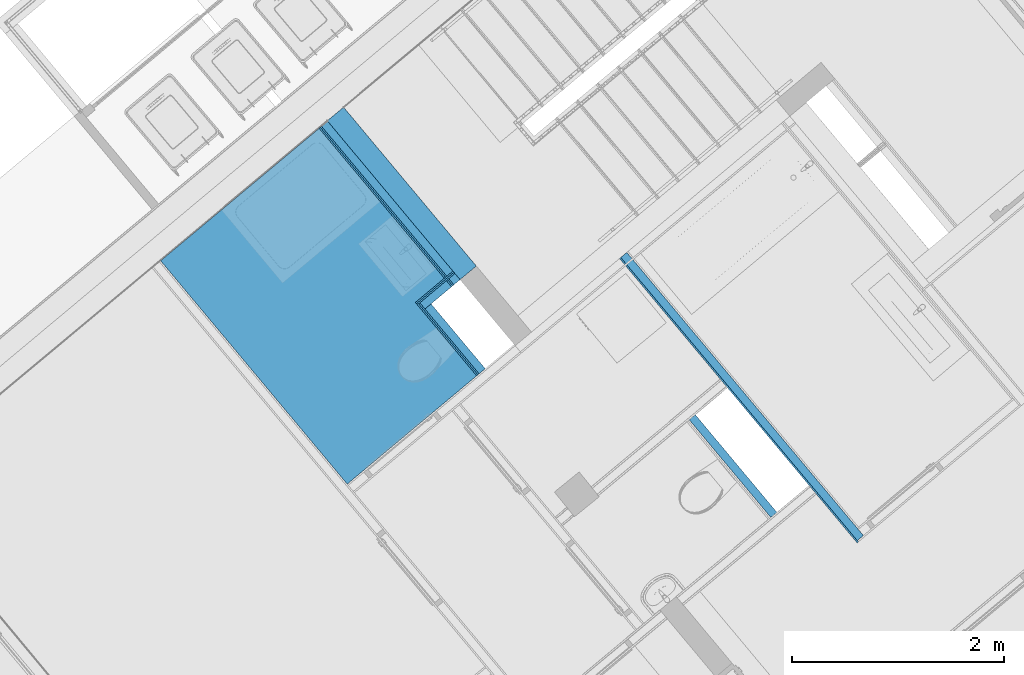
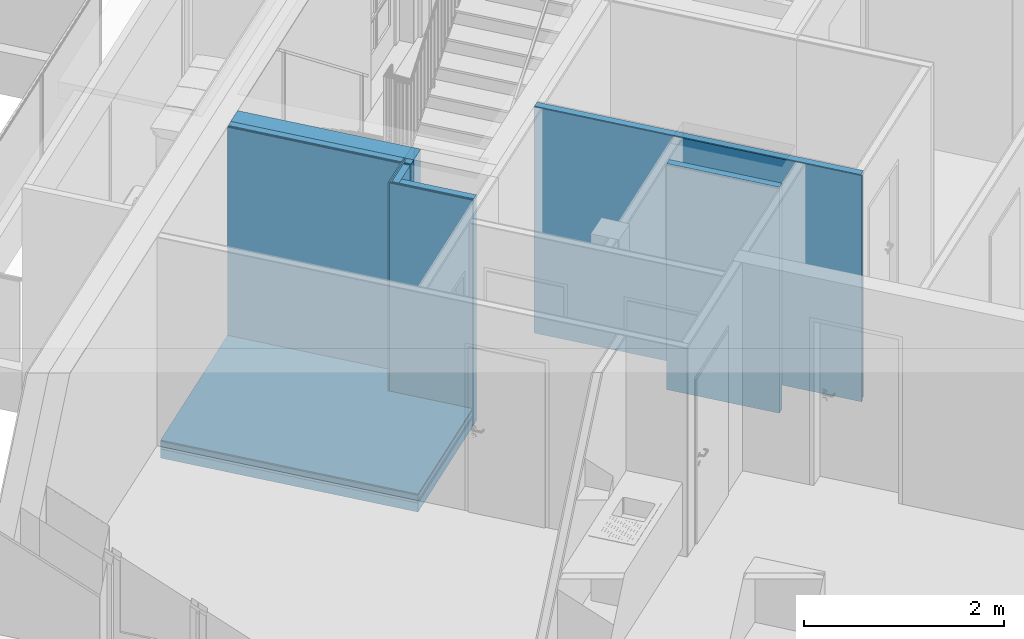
# One storey, part 30 of 67: 17 building element parts, 6 elements without a shape of their own.
"""IFC4 building model written with IfcOpenShell, lengths in metres."""

from ifc_helpers import new_model, entity, si_unit, converted_unit, derived_unit, direction, frame, origin_with_axes, place, context, subcontext, project, spatial, polygons, material, type_object, element, aggregate, save


model = new_model("IFC4")

# Units and contexts
model_context = context("Model", 3, precision=1e-05, world=origin_with_axes(), true_north=direction((0.0, 1.0)))
body_context = subcontext(model_context, "Body", "Model", "MODEL_VIEW")
ifc_project = project(units=[si_unit("LENGTHUNIT", "METRE"), si_unit("AREAUNIT", "SQUARE_METRE"), si_unit("VOLUMEUNIT", "CUBIC_METRE"), converted_unit("PLANEANGLEUNIT", "DEGREE", entity("IfcPlaneAngleMeasure", 0.0174532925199), si_unit("PLANEANGLEUNIT", "RADIAN"), dimensions=[0, 0, 0, 0, 0, 0, 0]), converted_unit("TIMEUNIT", "Year", entity("IfcTimeMeasure", 31556926.0), si_unit("TIMEUNIT", "SECOND"), dimensions=[0, 0, 1, 0, 0, 0, 0]), si_unit("MASSUNIT", "GRAM", prefix="KILO"), si_unit("THERMODYNAMICTEMPERATUREUNIT", "DEGREE_CELSIUS"), si_unit("LUMINOUSINTENSITYUNIT", "LUMEN"), si_unit("ENERGYUNIT", "JOULE", prefix="MEGA"), derived_unit("THERMALCONDUCTANCEUNIT", [(si_unit("POWERUNIT", "WATT"), 1), (si_unit("LENGTHUNIT", "METRE"), -1), (si_unit("THERMODYNAMICTEMPERATUREUNIT", "KELVIN"), -1)]), derived_unit("SPECIFICHEATCAPACITYUNIT", [(si_unit("ENERGYUNIT", "JOULE"), 1), (si_unit("MASSUNIT", "GRAM", prefix="KILO"), -1), (si_unit("THERMODYNAMICTEMPERATUREUNIT", "KELVIN"), -1)]), derived_unit("MASSDENSITYUNIT", [(si_unit("MASSUNIT", "GRAM", prefix="KILO"), 1), (si_unit("VOLUMEUNIT", "CUBIC_METRE"), -1)])], contexts=[model_context])

# Site, building, storey
site_placement = place(None, frame((-0.00153261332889, -0.00661245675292, 0.0), z_axis=(0.0, 0.0, 1.0), x_axis=(1.0, 0.0, 0.0)))
site = spatial("IfcSite", under=ifc_project, at=site_placement, Name="Site", CompositionType="ELEMENT")
building_placement = place(site_placement, origin_with_axes())
building = spatial("IfcBuilding", under=site, at=building_placement, Name="Building", CompositionType="ELEMENT")
storey_placement = place(building_placement, frame((0.0, 0.0, -0.22), z_axis=(0.0, 0.0, 1.0), x_axis=(1.0, 0.0, 0.0)))
storey = spatial("IfcBuildingStorey", under=building, at=storey_placement, Name="EG", CompositionType="ELEMENT", Elevation=-0.22)

# Wall, building element parts
wall_type_1 = type_object("IfcWallType", Name="LB 10,5 cm doppelte Vorsatzschale Bad 105", PredefinedType="NOTDEFINED")
wall_1_placement = place(storey_placement, frame((-3.007781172, 20.6786353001, 0.0), z_axis=(0.0, 0.0, 1.0), x_axis=(0.641209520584, -0.767365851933, 0.0)))
wall_1 = element("IfcWall", 1, at=wall_1_placement, inside=storey, type_object=wall_type_1, Name="Wand-004", PredefinedType="NOTDEFINED")
ifc_material_1 = material(Name="Mineralwolle weich")
building_element_part_1_placement = place(wall_1_placement, origin_with_axes())
building_element_part_1 = element("IfcBuildingElementPart", 2, at=building_element_part_1_placement, material=ifc_material_1, Name="Mineralwolle weich", PredefinedType="NOTDEFINED", context=body_context, shape_type="Tessellation", body=[
    polygons([(0.0, 0.0, 2.76), (0.795549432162, 0.0, 2.76), (0.795549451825, 0.0, 0.0), (0.0, 0.0, 0.0), (0.795584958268, -0.075, 2.76), (0.0, -0.075, 2.76), (0.795584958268, -0.075, 0.0), (0.0, -0.075, 0.0)], [[[1, 2, 3, 4]], [[5, 2, 1, 6]], [[2, 5, 7, 3]], [[3, 7, 8, 4]], [[6, 1, 4, 8]], [[5, 6, 8, 7]]], closed=True),
])
ifc_material_2 = material(Name="Gipskarton")
building_element_part_2_placement = place(wall_1_placement, origin_with_axes())
building_element_part_2 = element("IfcBuildingElementPart", 3, at=building_element_part_2_placement, material=ifc_material_2, Name="Gipskarton", PredefinedType="NOTDEFINED", context=body_context, shape_type="Tessellation", body=[
    polygons([(-0.0750000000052, -0.075, 2.76), (0.795584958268, -0.075, 2.76), (0.795584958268, -0.075, 0.0), (-0.0750000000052, -0.075, 0.0), (0.795592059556, -0.09, 2.76), (-0.0750000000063, -0.09, 2.76), (0.795592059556, -0.09, 0.0), (-0.0750000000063, -0.09, 0.0)], [[[1, 2, 3, 4]], [[5, 2, 1, 6]], [[2, 5, 7, 3]], [[3, 7, 8, 4]], [[6, 1, 4, 8]], [[5, 6, 8, 7]]], closed=True),
])
building_element_part_3_placement = place(wall_1_placement, origin_with_axes())
building_element_part_3 = element("IfcBuildingElementPart", 4, at=building_element_part_3_placement, material=ifc_material_2, Name="Gipskarton", PredefinedType="NOTDEFINED", context=body_context, shape_type="Tessellation", body=[
    polygons([(-0.0900000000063, -0.09, 2.76), (0.795592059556, -0.09, 2.76), (0.795592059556, -0.09, 0.0), (-0.0900000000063, -0.09, 0.0), (0.795599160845, -0.105, 2.76), (-0.0900000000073, -0.105, 2.76), (0.795599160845, -0.105, 0.0), (-0.0900000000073, -0.105, 0.0)], [[[1, 2, 3, 4]], [[5, 2, 1, 6]], [[2, 5, 7, 3]], [[3, 7, 8, 4]], [[6, 1, 4, 8]], [[5, 6, 8, 7]]], closed=True),
])
aggregate(wall_1, [building_element_part_1, building_element_part_2, building_element_part_3])

wall_2_placement = place(storey_placement, frame((-2.73492476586, 20.9066336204, 0.0), z_axis=(0.0, 0.0, 1.0), x_axis=(-0.767365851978, -0.64120952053, 0.0)))
wall_2 = element("IfcWall", 5, at=wall_2_placement, inside=storey, type_object=wall_type_1, Name="Wand-004", PredefinedType="NOTDEFINED")
building_element_part_4_placement = place(wall_2_placement, origin_with_axes())
building_element_part_4 = element("IfcBuildingElementPart", 6, at=building_element_part_4_placement, material=ifc_material_1, Name="Mineralwolle weich", PredefinedType="NOTDEFINED", context=body_context, shape_type="Tessellation", body=[
    polygons([(0.0, -0.075, 2.76), (0.0, 0.0, 2.76), (0.0, 0.0, 0.0), (0.0, -0.075, 0.0), (0.355575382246, 0.0, 2.76), (0.430575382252, -0.075, 2.76), (0.430575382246, 0.0, 2.76), (0.430575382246, 0.0, 0.0), (0.430575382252, -0.075, 0.0)], [[[1, 2, 3, 4]], [[5, 2, 1, 6, 7]], [[5, 7, 8, 3, 2]], [[8, 9, 4, 3]], [[6, 1, 4, 9]], [[7, 6, 9, 8]]], closed=True),
])
building_element_part_5_placement = place(wall_2_placement, origin_with_axes())
building_element_part_5 = element("IfcBuildingElementPart", 7, at=building_element_part_5_placement, material=ifc_material_2, Name="Gipskarton", PredefinedType="NOTDEFINED", context=body_context, shape_type="Tessellation", body=[
    polygons([(0.0, -0.09, 2.76), (0.0, -0.075, 2.76), (0.0, -0.075, 0.0), (0.0, -0.09, 0.0), (0.445575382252, -0.075, 2.76), (0.445575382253, -0.09, 2.76), (0.445575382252, -0.075, 0.0), (0.445575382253, -0.09, 0.0)], [[[1, 2, 3, 4]], [[5, 2, 1, 6]], [[2, 5, 7, 3]], [[7, 8, 4, 3]], [[6, 1, 4, 8]], [[5, 6, 8, 7]]], closed=True),
])
building_element_part_6_placement = place(wall_2_placement, origin_with_axes())
building_element_part_6 = element("IfcBuildingElementPart", 8, at=building_element_part_6_placement, material=ifc_material_2, Name="Gipskarton", PredefinedType="NOTDEFINED", context=body_context, shape_type="Tessellation", body=[
    polygons([(0.0, -0.105, 2.76), (0.0, -0.09, 2.76), (0.0, -0.09, 0.0), (0.0, -0.105, 0.0), (0.460575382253, -0.09, 2.76), (0.460575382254, -0.105, 2.76), (0.460575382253, -0.09, 0.0), (0.460575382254, -0.105, 0.0)], [[[1, 2, 3, 4]], [[5, 2, 1, 6]], [[2, 5, 7, 3]], [[7, 8, 4, 3]], [[6, 1, 4, 8]], [[5, 6, 8, 7]]], closed=True),
])
aggregate(wall_2, [building_element_part_4, building_element_part_5, building_element_part_6])

wall_type_2 = type_object("IfcWallType", Name="LB 10,5 cm doppelte Vorsatzschale Bad + STB 305", PredefinedType="NOTDEFINED")
wall_3_placement = place(storey_placement, frame((-2.58145159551, 21.0348755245, 0.0), z_axis=(0.0, 0.0, 1.0), x_axis=(-0.641209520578, 0.767365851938, 0.0)))
wall_3 = element("IfcWall", 9, at=wall_3_placement, inside=storey, type_object=wall_type_2, Name="Wand-003", PredefinedType="NOTDEFINED")
building_element_part_7_placement = place(wall_3_placement, origin_with_axes())
building_element_part_7 = element("IfcBuildingElementPart", 10, at=building_element_part_7_placement, material=ifc_material_2, Name="Gipskarton", PredefinedType="NOTDEFINED", context=body_context, shape_type="Tessellation", body=[
    polygons([(1.94498975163, 0.29, 0.0), (0.0, 0.29, 0.0), (0.0, 0.305, 0.0), (1.94498975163, 0.305, 0.0), (1.94498975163, 0.29, 2.76), (0.0, 0.29, 2.76), (0.0, 0.305, 2.76), (1.94498975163, 0.305, 2.76)], [[[1, 2, 3, 4]], [[5, 6, 2, 1]], [[3, 2, 6, 7]], [[4, 3, 7, 8]], [[4, 8, 5, 1]], [[8, 7, 6, 5]]], closed=True),
])
building_element_part_8_placement = place(wall_3_placement, origin_with_axes())
building_element_part_8 = element("IfcBuildingElementPart", 11, at=building_element_part_8_placement, material=ifc_material_2, Name="Gipskarton", PredefinedType="NOTDEFINED", context=body_context, shape_type="Tessellation", body=[
    polygons([(1.94498975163, 0.275, 0.0), (0.0, 0.275, 0.0), (0.0, 0.29, 0.0), (1.94498975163, 0.29, 0.0), (1.94498975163, 0.275, 2.76), (0.0, 0.275, 2.76), (0.0, 0.29, 2.76), (1.94498975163, 0.29, 2.76)], [[[1, 2, 3, 4]], [[5, 6, 2, 1]], [[3, 2, 6, 7]], [[4, 3, 7, 8]], [[4, 8, 5, 1]], [[8, 7, 6, 5]]], closed=True),
])
building_element_part_9_placement = place(wall_3_placement, origin_with_axes())
building_element_part_9 = element("IfcBuildingElementPart", 12, at=building_element_part_9_placement, material=ifc_material_1, Name="Mineralwolle weich", PredefinedType="NOTDEFINED", context=body_context, shape_type="Tessellation", body=[
    polygons([(1.94498975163, 0.2, 0.0), (0.0, 0.2, 0.0), (0.0, 0.275, 0.0), (1.94498975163, 0.275, 0.0), (1.94498975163, 0.2, 2.76), (0.0, 0.2, 2.76), (0.0, 0.275, 2.76), (1.94498975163, 0.275, 2.76)], [[[1, 2, 3, 4]], [[5, 6, 2, 1]], [[3, 2, 6, 7]], [[4, 3, 7, 8]], [[4, 8, 5, 1]], [[8, 7, 6, 5]]], closed=True),
])
ifc_material_3 = material(Name="Stahlbeton Wand")
building_element_part_10_placement = place(wall_3_placement, origin_with_axes())
building_element_part_10 = element("IfcBuildingElementPart", 13, at=building_element_part_10_placement, material=ifc_material_3, Name="Stahlbeton Wand", PredefinedType="NOTDEFINED", context=body_context, shape_type="Tessellation", body=[
    polygons([(1.94998975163, 0.0, 0.0), (0.0, 0.0, 0.0), (0.0, 0.2, 0.0), (1.94998975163, 0.2, 0.0), (1.94998975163, 0.0, 2.76), (0.0, 0.0, 2.76), (0.0, 0.2, 2.76), (1.94998975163, 0.2, 2.76)], [[[1, 2, 3, 4]], [[5, 6, 2, 1]], [[3, 2, 6, 7]], [[4, 3, 7, 8]], [[4, 8, 5, 1]], [[8, 7, 6, 5]]], closed=True),
])
aggregate(wall_3, [building_element_part_7, building_element_part_8, building_element_part_9, building_element_part_10])

wall_type_3 = type_object("IfcWallType", Name="IW LB 01 Leichtbautrennwand einfach 10,5 cm 105", PredefinedType="NOTDEFINED")
wall_4_placement = place(storey_placement, frame((-1.23301762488, 21.1055687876, 0.0), z_axis=(0.0, 0.0, 1.0), x_axis=(0.6412095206, -0.767365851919, 0.0)))
wall_4 = element("IfcWall", 14, at=wall_4_placement, inside=storey, type_object=wall_type_3, Name="Wand-012", PredefinedType="NOTDEFINED")
building_element_part_11_placement = place(wall_4_placement, origin_with_axes())
building_element_part_11 = element("IfcBuildingElementPart", 15, at=building_element_part_11_placement, material=ifc_material_1, Name="Mineralwolle weich", PredefinedType="NOTDEFINED", context=body_context, shape_type="Tessellation", body=[
    polygons([(0.0, 0.09, 2.76), (3.47460026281, 0.09, 2.76), (3.47460026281, 0.09, 0.0), (0.0, 0.09, 0.0), (0.0, 0.015, 2.76), (3.47460026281, 0.015, 2.76), (3.47460026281, 0.015, 0.0), (0.0, 0.015, 0.0)], [[[1, 2, 3, 4]], [[2, 1, 5, 6]], [[2, 6, 7, 3]], [[3, 7, 8, 4]], [[5, 1, 4, 8]], [[5, 8, 7, 6]]], closed=True),
])
building_element_part_12_placement = place(wall_4_placement, origin_with_axes())
building_element_part_12 = element("IfcBuildingElementPart", 16, at=building_element_part_12_placement, material=ifc_material_2, Name="Gipskarton", PredefinedType="NOTDEFINED", context=body_context, shape_type="Tessellation", body=[
    polygons([(0.0, 0.015, 2.76), (1.48018589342, 0.015, 2.76), (2.78506485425, 0.015, 2.76), (3.48960026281, 0.015, 2.76), (3.48960026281, 0.015, 0.0), (0.0, 0.015, 0.0), (1.48018589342, 0.0, 2.76), (0.0, 0.0, 2.76), (1.58518589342, 0.0, 2.76), (2.78506485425, 0.0, 2.76), (3.48960026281, 0.0, 2.76), (3.48960026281, 0.0, 0.0), (0.0, 0.0, 0.0)], [[[1, 2, 3, 4, 5, 6]], [[7, 2, 1, 8]], [[2, 7, 9, 10, 3]], [[11, 4, 3, 10]], [[4, 11, 12, 5]], [[5, 12, 13, 6]], [[8, 1, 6, 13]], [[7, 8, 13, 12, 11, 10, 9]]], closed=True),
])
aggregate(wall_4, [building_element_part_11, building_element_part_12])

# Wall, building element part
wall_5_placement = place(storey_placement, frame((-0.587223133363, 19.7162753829, 0.0), z_axis=(0.0, 0.0, 1.0), x_axis=(0.64120952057, -0.767365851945, 0.0)))
wall_5 = element("IfcWall", 17, at=wall_5_placement, inside=storey, type_object=wall_type_1, Name="Wand-004", PredefinedType="NOTDEFINED")
building_element_part_13_placement = place(wall_5_placement, origin_with_axes())
building_element_part_13 = element("IfcBuildingElementPart", 18, at=building_element_part_13_placement, material=ifc_material_1, Name="Mineralwolle weich", PredefinedType="NOTDEFINED", context=body_context, shape_type="Tessellation", body=[
    polygons([(0.10500000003, 0.0, 2.76), (1.30487896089, 0.0, 2.76), (1.30487896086, 0.0, 0.0), (0.10500000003, 0.0, 0.0), (1.30487896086, -0.075, 2.76), (0.105000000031, -0.075, 2.76), (1.30487896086, -0.075, 0.0), (0.105000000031, -0.075, 0.0)], [[[1, 2, 3, 4]], [[5, 2, 1, 6]], [[2, 5, 7, 3]], [[3, 7, 8, 4]], [[6, 1, 4, 8]], [[5, 6, 8, 7]]], closed=True),
])
aggregate(wall_5, [building_element_part_13])

# Covering, building element parts
covering_type = type_object("IfcCoveringType", Name="DE 01 Decke Wohnung/Wohnung Fließen 220", PredefinedType="NOTDEFINED")
covering_placement = place(storey_placement, frame((-2.57820884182, 20.0007926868, 0.22), z_axis=(0.0, 0.0, 1.0), x_axis=(1.0, 0.0, 0.0)))
covering = element("IfcCovering", 19, at=covering_placement, inside=storey, type_object=covering_type, Name="Decke-004", PredefinedType="NOTDEFINED")
ifc_material_4 = material(Name="Fliesen")
building_element_part_14_placement = place(covering_placement, origin_with_axes())
building_element_part_14 = element("IfcBuildingElementPart", 20, at=building_element_part_14_placement, material=ifc_material_4, Name="Fliesen", PredefinedType="NOTDEFINED", context=body_context, shape_type="Tessellation", body=[
    polygons([(-0.577472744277, 0.691089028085, -0.015), (-0.577472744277, 0.691089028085, 0.0), (0.0, 0.0, 0.0), (0.0, 0.0, -0.015), (-0.304616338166, 0.919087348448, -0.015), (-0.304616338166, 0.919087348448, 0.0), (-1.48443528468, 2.33103265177, 0.0), (-2.97692518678, 1.08391078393, 0.0), (-1.21915101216, -1.0197009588, 0.0), (-1.21915101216, -1.0197009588, -0.015), (-2.97692518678, 1.08391078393, -0.015), (-1.48443528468, 2.33103265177, -0.015)], [[[1, 2, 3, 4]], [[5, 6, 2, 1]], [[3, 2, 6, 7, 8, 9]], [[4, 3, 9, 10]], [[4, 10, 11, 12, 5, 1]], [[12, 7, 6, 5]], [[11, 8, 7, 12]], [[10, 9, 8, 11]]], closed=True),
])
ifc_material_5 = material(Name="Estrich")
building_element_part_15_placement = place(covering_placement, origin_with_axes())
building_element_part_15 = element("IfcBuildingElementPart", 21, at=building_element_part_15_placement, material=ifc_material_5, Name="Estrich", PredefinedType="NOTDEFINED", context=body_context, shape_type="Tessellation", body=[
    polygons([(-0.577472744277, 0.691089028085, -0.08), (-0.577472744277, 0.691089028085, -0.015), (0.0, 0.0, -0.015), (0.0, 0.0, -0.08), (-0.304616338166, 0.919087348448, -0.08), (-0.304616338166, 0.919087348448, -0.015), (-1.48443528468, 2.33103265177, -0.015), (-2.97692518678, 1.08391078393, -0.015), (-1.21915101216, -1.0197009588, -0.015), (-1.21915101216, -1.0197009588, -0.08), (-2.97692518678, 1.08391078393, -0.08), (-1.48443528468, 2.33103265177, -0.08)], [[[1, 2, 3, 4]], [[5, 6, 2, 1]], [[3, 2, 6, 7, 8, 9]], [[4, 3, 9, 10]], [[4, 10, 11, 12, 5, 1]], [[12, 7, 6, 5]], [[11, 8, 7, 12]], [[10, 9, 8, 11]]], closed=True),
])
ifc_material_6 = material(Name="Trittschalldämmung")
building_element_part_16_placement = place(covering_placement, origin_with_axes())
building_element_part_16 = element("IfcBuildingElementPart", 22, at=building_element_part_16_placement, material=ifc_material_6, Name="Trittschalldämmung", PredefinedType="NOTDEFINED", context=body_context, shape_type="Tessellation", body=[
    polygons([(-0.577472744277, 0.691089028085, -0.11), (-0.577472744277, 0.691089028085, -0.08), (0.0, 0.0, -0.08), (0.0, 0.0, -0.11), (-0.304616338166, 0.919087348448, -0.11), (-0.304616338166, 0.919087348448, -0.08), (-1.48443528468, 2.33103265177, -0.08), (-2.97692518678, 1.08391078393, -0.08), (-1.21915101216, -1.0197009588, -0.08), (-1.21915101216, -1.0197009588, -0.11), (-2.97692518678, 1.08391078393, -0.11), (-1.48443528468, 2.33103265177, -0.11)], [[[1, 2, 3, 4]], [[5, 6, 2, 1]], [[3, 2, 6, 7, 8, 9]], [[4, 3, 9, 10]], [[4, 10, 11, 12, 5, 1]], [[12, 7, 6, 5]], [[11, 8, 7, 12]], [[10, 9, 8, 11]]], closed=True),
])
ifc_material_7 = material(Name="Schüttung")
building_element_part_17_placement = place(covering_placement, origin_with_axes())
building_element_part_17 = element("IfcBuildingElementPart", 23, at=building_element_part_17_placement, material=ifc_material_7, Name="Schüttung", PredefinedType="NOTDEFINED", context=body_context, shape_type="Tessellation", body=[
    polygons([(0.0, 0.0, -0.22), (-0.577472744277, 0.691089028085, -0.22), (-0.577472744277, 0.691089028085, -0.11), (0.0, 0.0, -0.11), (-1.21915101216, -1.0197009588, -0.22), (-2.97692518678, 1.08391078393, -0.22), (-1.48443528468, 2.33103265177, -0.22), (-0.304616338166, 0.919087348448, -0.22), (-0.304616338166, 0.919087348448, -0.11), (-1.48443528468, 2.33103265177, -0.11), (-2.97692518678, 1.08391078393, -0.11), (-1.21915101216, -1.0197009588, -0.11)], [[[1, 2, 3, 4]], [[1, 5, 6, 7, 8, 2]], [[2, 8, 9, 3]], [[4, 3, 9, 10, 11, 12]], [[5, 1, 4, 12]], [[6, 5, 12, 11]], [[7, 6, 11, 10]], [[8, 7, 10, 9]]], closed=True),
])
aggregate(covering, [building_element_part_14, building_element_part_15, building_element_part_16, building_element_part_17])

save(model, "model.ifc")
